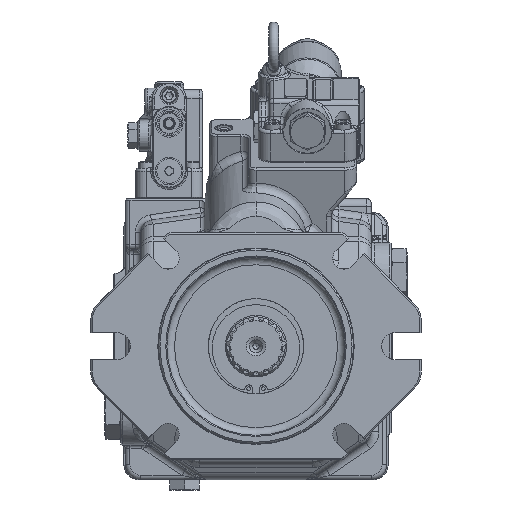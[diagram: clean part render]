
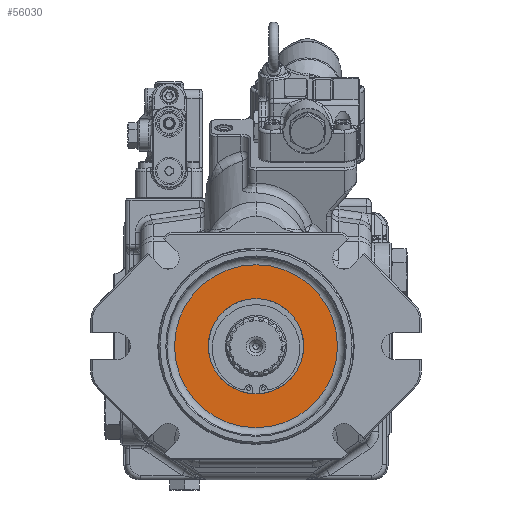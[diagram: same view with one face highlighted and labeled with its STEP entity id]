
A CAD part, front view. The second image highlights one B-rep face of the part: STEP entity #56030.
In plain terms, the highlighted planar face has unit normal (0, -1, 0).
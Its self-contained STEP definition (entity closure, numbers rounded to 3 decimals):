
#3462=FACE_BOUND('',#9710,.T.);
#4123=PLANE('',#60256);
#6193=FACE_OUTER_BOUND('',#9709,.T.);
#9709=EDGE_LOOP('',(#42074));
#9710=EDGE_LOOP('',(#42075));
#13154=CIRCLE('',#60039,31.);
#13264=CIRCLE('',#60255,53.);
#24742=VERTEX_POINT('',#93789);
#25006=VERTEX_POINT('',#94857);
#30869=EDGE_CURVE('',#24742,#24742,#13154,.T.);
#31224=EDGE_CURVE('',#25006,#25006,#13264,.T.);
#42074=ORIENTED_EDGE('',*,*,#31224,.F.);
#42075=ORIENTED_EDGE('',*,*,#30869,.T.);
#56030=ADVANCED_FACE('',(#6193,#3462),#4123,.F.);
#60039=AXIS2_PLACEMENT_3D('',#93791,#67754,#67755);
#60255=AXIS2_PLACEMENT_3D('',#94859,#68377,#68378);
#60256=AXIS2_PLACEMENT_3D('',#94860,#68379,#68380);
#67754=DIRECTION('center_axis',(0.,1.,0.));
#67755=DIRECTION('ref_axis',(0.,0.,
1.));
#68377=DIRECTION('center_axis',(0.,1.,0.));
#68378=DIRECTION('ref_axis',(0.,0.,
1.));
#68379=DIRECTION('center_axis',(0.,1.,0.));
#68380=DIRECTION('ref_axis',(0.,0.,
1.));
#93789=CARTESIAN_POINT('',(-94.713,-162.374,-73.055));
#93791=CARTESIAN_POINT('Origin',(-94.713,-162.374,-42.055));
#94857=CARTESIAN_POINT('',(-94.713,-162.374,-95.055));
#94859=CARTESIAN_POINT('Origin',(-94.713,-162.374,-42.055));
#94860=CARTESIAN_POINT('Origin',(-94.713,-162.374,-15.555));
